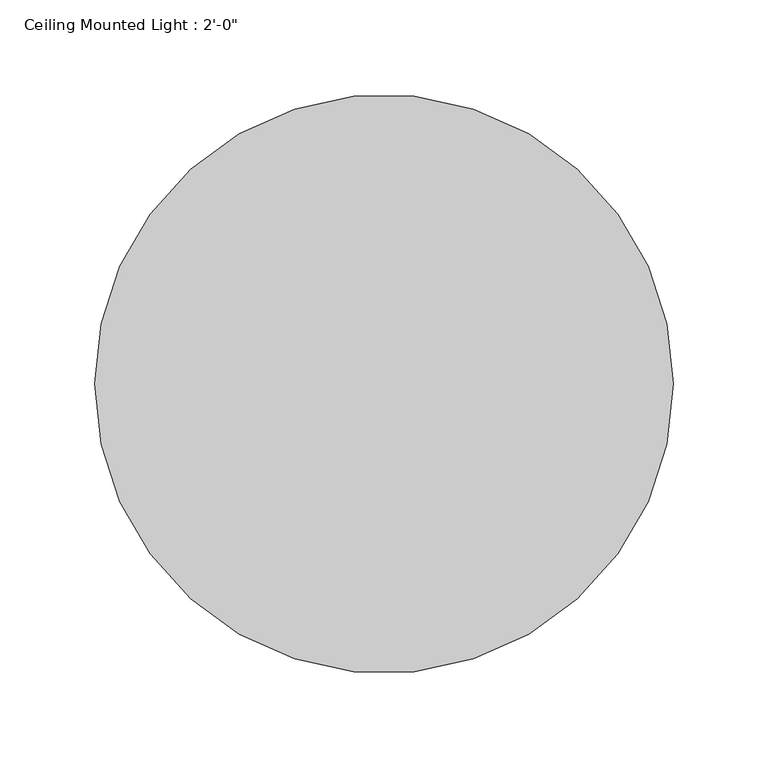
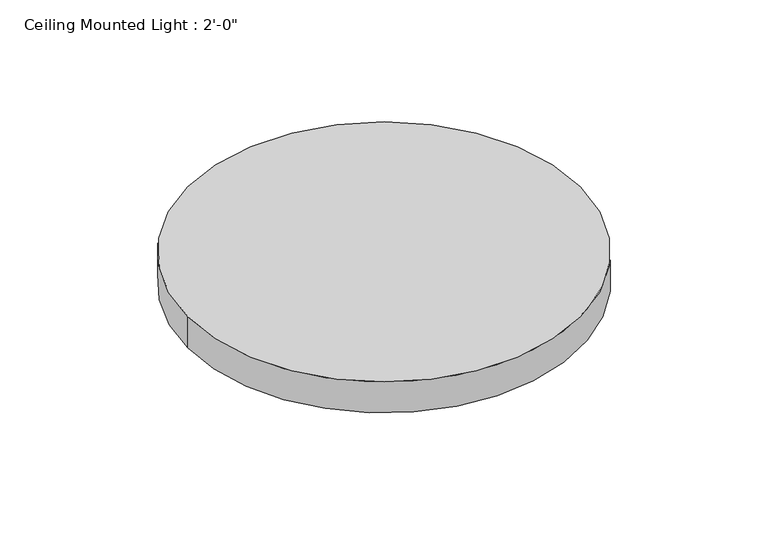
"""IFC4 building model written with IfcOpenShell, lengths in millimetres: proxy geometry."""

from ifc_helpers import new_model, si_unit, point, frame, origin, origin_2d, place, context, project, spatial, circle_curve, trimmed, segment, composite_curve, outline, extrude, source, transform, mapped, element, save


def proxy_8f18e016(model_context):
    return source(origin(), model_context, "Body", "SweptSolid", [
        extrude(outline(composite_curve([segment(trimmed(circle_curve(origin_2d(), 152.4), [point((-152.4, 0.0))], [point((152.4, 0.0))], False, "CARTESIAN"), True, "CONTINUOUS"), segment(trimmed(circle_curve(origin_2d(), 152.4), [point((152.4, 0.0))], [point((-152.4, 0.0))], False, "CARTESIAN"), True, "CONTINUOUS")], self_intersect=False)), frame((0.0, 0.0, 2425.7), z_axis=(0.0, 0.0, 1.0), x_axis=(1.0, 0.0, 0.0)), (0.0, 0.0, 1.0), 25.4),
    ])


if __name__ == "__main__":
    model = new_model("IFC4")
    model_context = context("Model", 3, world=origin())
    ifc_project = project(units=[si_unit("LENGTHUNIT", "METRE", prefix="MILLI")], contexts=[model_context])
    site = spatial("IfcSite", under=ifc_project)
    building = spatial("IfcBuilding", under=site)
    placement = place(None, origin())
    proxy_shape = proxy_8f18e016(model_context)
    element("IfcBuildingElementProxy", 1, Name="Ceiling Mounted Light : 2'-0\"", ObjectType="Ceiling Mounted Light : 2'-0\"", at=placement, inside=building, context=model_context, shape_type="MappedRepresentation", body=[
        mapped(proxy_shape, transform((0.0, 0.0, 0.0), x_axis=(1.0, 0.0, 0.0), y_axis=(0.0, 1.0, 0.0), z_axis=(0.0, 0.0, 1.0))),
    ])
    save(model, "model.ifc")
